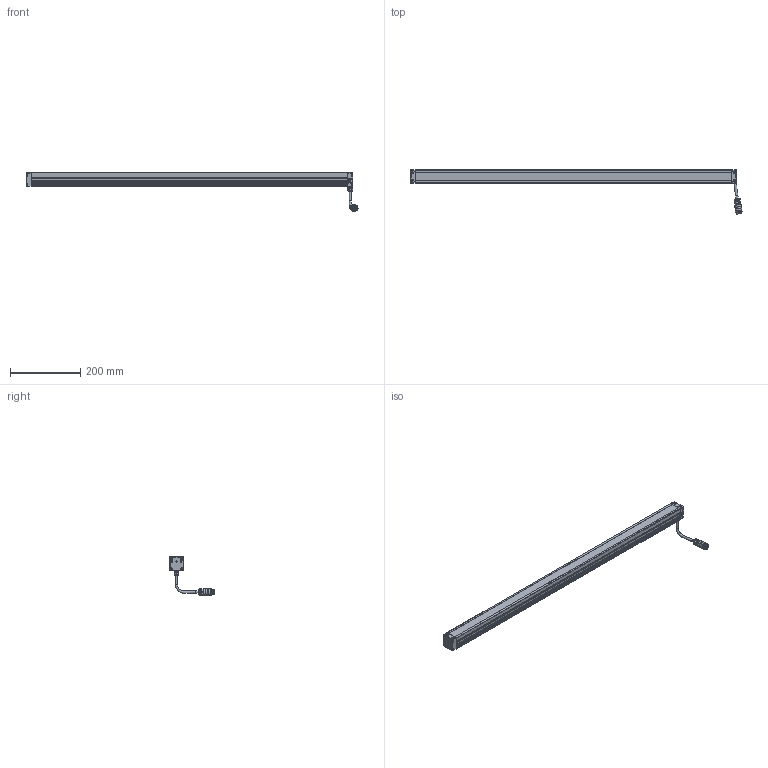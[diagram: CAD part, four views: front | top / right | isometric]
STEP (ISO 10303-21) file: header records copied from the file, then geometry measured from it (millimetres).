
FILE_DESCRIPTION(/* description */ (''),/* implementation_level */ '2;1');
FILE_NAME(/* name */ 'LBHP900',/* time_stamp */ '2025-01-14T08:07:42+01:00',/* author */ (''),/* organization */ ('iiM AG'),/* preprocessor_version */ 'ST-DEVELOPER v16.7',/* originating_system */ 'DEX',/* authorisation */ $);
FILE_SCHEMA (('AUTOMOTIVE_DESIGN {1 0 10303 214 3 1 1}'));
Length unit declared in the file: millimetre
Products named in the file (1): step export
Bounding box: 944.79 x 126.2 x 109.58 mm (x, y, z)
Volume: 1193460.5 mm3; surface area: 266628.6 mm2
Topology: 2 solids, 2 shells, 882 faces, 2334 edges, 1476 vertices
Faces by surface type: cylinder 368, plane 336, cone 138, sphere 21, torus 16, bspline 3
Full cylindrical faces by diameter (mm): 1.001 x12, 2.693 x4, 3 x2, 3.1 x4, 3.242 x6, 3.8 x8, 5.6 x8, 6 x8, 6.8 x2, 8.008 x1, 10 x1, 11 x1, 12.9 x2, 14 x1, 15.015 x1, 16.016 x1, 17.518 x1, 18.519 x3, 18.619 x2
Entity records: 32582 total; most frequent: CARTESIAN_POINT 6224, ORIENTED_EDGE 4118, DIRECTION 4048, EDGE_CURVE 2059, AXIS2_PLACEMENT_3D 1523, VERTEX_POINT 1383, FACE_BOUND 1100, EDGE_LOOP 1086
